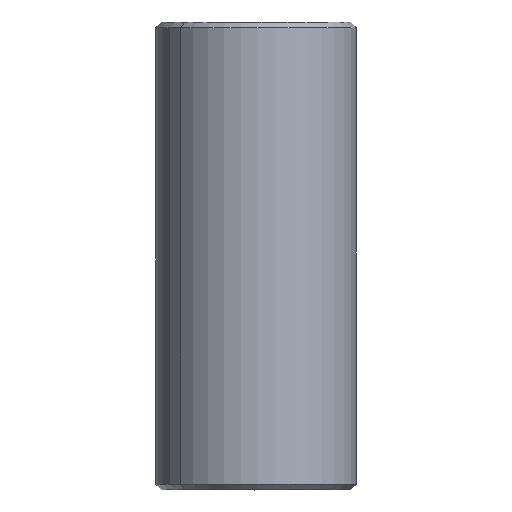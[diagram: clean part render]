
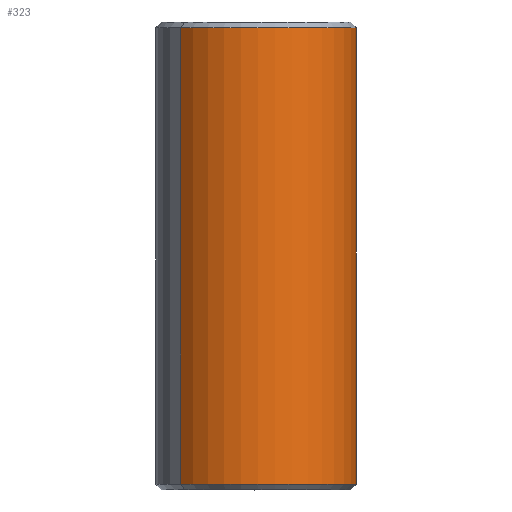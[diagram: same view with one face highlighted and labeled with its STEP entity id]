
A CAD part, top view. The second image highlights one B-rep face of the part: STEP entity #323.
In plain terms, the highlighted cylindrical face has radius 9 mm (diameter 18 mm), a partial arc.
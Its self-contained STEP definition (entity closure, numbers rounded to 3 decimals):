
#300=VECTOR('Line Direction',#299,1.) ;
#307=VECTOR('Line Direction',#306,1.) ;
#237=DIRECTION('Axis2P3D Direction',(0.,-1.,0.)) ;
#294=DIRECTION('Axis2P3D Direction',(0.,-1.,0.)) ;
#295=DIRECTION('Axis2P3D XDirection',(0.753,0.,-0.658)) ;
#299=DIRECTION('Vector Direction',(0.,-1.,0.)) ;
#306=DIRECTION('Vector Direction',(0.,-1.,0.)) ;
#313=DIRECTION('Axis2P3D Direction',(0.,-1.,0.)) ;
#226=CARTESIAN_POINT('Vertex',(52.264,-360.749,-281.038)) ;
#233=CARTESIAN_POINT('Vertex',(38.712,-360.749,-269.192)) ;
#236=CARTESIAN_POINT('Axis2P3D Location',(45.488,-360.749,-275.115)) ;
#293=CARTESIAN_POINT('Axis2P3D Location',(45.488,-381.249,-275.115)) ;
#298=CARTESIAN_POINT('Line Origine',(52.264,-381.249,-281.038)) ;
#302=CARTESIAN_POINT('Vertex',(52.264,-401.749,-281.038)) ;
#305=CARTESIAN_POINT('Line Origine',(38.712,-381.249,-269.192)) ;
#309=CARTESIAN_POINT('Vertex',(38.712,-401.749,-269.192)) ;
#312=CARTESIAN_POINT('Axis2P3D Location',(45.488,-401.749,-275.115)) ;
#238=AXIS2_PLACEMENT_3D('Circle Axis2P3D',#236,#237,$) ;
#296=AXIS2_PLACEMENT_3D('Cylinder Axis2P3D',#293,#294,#295) ;
#314=AXIS2_PLACEMENT_3D('Circle Axis2P3D',#312,#313,$) ;
#240=EDGE_CURVE('',#227,#234,#239,.T.) ;
#304=EDGE_CURVE('',#303,#227,#301,.F.) ;
#311=EDGE_CURVE('',#310,#234,#308,.F.) ;
#316=EDGE_CURVE('',#303,#310,#315,.T.) ;
#318=ORIENTED_EDGE('',*,*,#304,.T.) ;
#319=ORIENTED_EDGE('',*,*,#240,.T.) ;
#320=ORIENTED_EDGE('',*,*,#311,.F.) ;
#321=ORIENTED_EDGE('',*,*,#316,.F.) ;
#301=LINE('Line',#298,#300) ;
#308=LINE('Line',#305,#307) ;
#323=ADVANCED_FACE('\X2\96F64EF651E04F554F53\X0\',(#322),#297,.T.) ;
#239=CIRCLE('generated circle',#238,9.) ;
#315=CIRCLE('generated circle',#314,9.) ;
#297=CYLINDRICAL_SURFACE('generated cylinder',#296,9.) ;
#227=VERTEX_POINT('',#226) ;
#234=VERTEX_POINT('',#233) ;
#303=VERTEX_POINT('',#302) ;
#310=VERTEX_POINT('',#309) ;
#317=EDGE_LOOP('',(#318,#319,#320,#321)) ;
#322=FACE_OUTER_BOUND('',#317,.T.) ;
